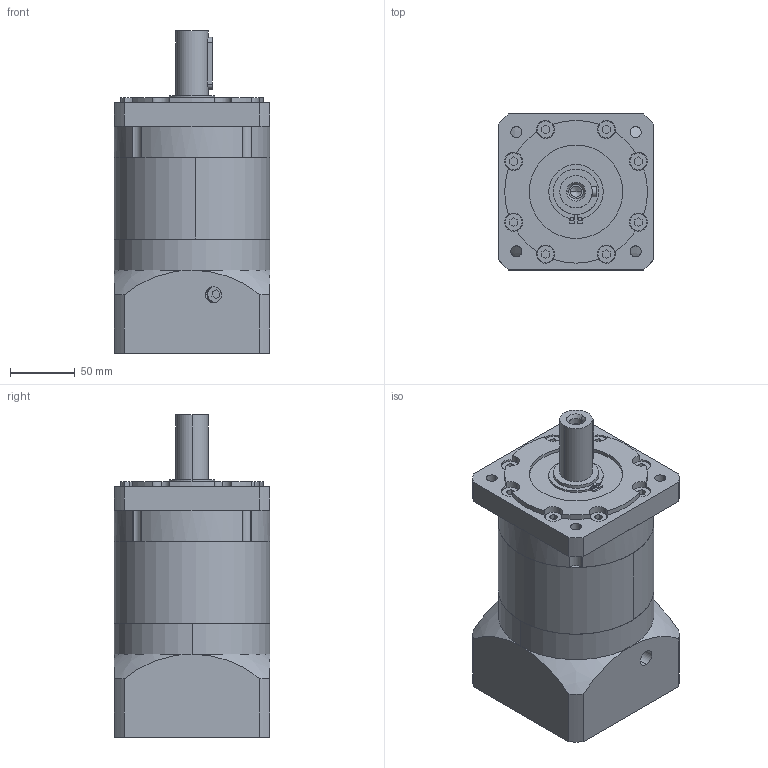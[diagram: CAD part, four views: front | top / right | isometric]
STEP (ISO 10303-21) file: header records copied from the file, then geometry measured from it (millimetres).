
FILE_DESCRIPTION (( 'STEP AP203' ), '1' );
FILE_NAME ('PLF120-L2-22-110-145粣酗70.STEP', '2023-11-21T01:56:41', ( 'Windows User' ), ( 'P R C' ), 'SwSTEP 2.0', 'SolidWorks 2016', '' );
FILE_SCHEMA (( 'CONFIG_CONTROL_DESIGN' ));
Length unit declared in the file: millimetre
Products named in the file (8): PLF120  內齿圈-优化_二级内齿圈; PLF120  奻屳唳; PLF120 狟屳唳-22; 粣創-6007 40x68x15; 邧埴瑩 8x7x40; PLF120-L2-22-110-145粣酗70; 螺釘範本 M8x20; PLF120 蟀諉啣--LR71.5
Assembly tree (7 placements, depth 2):
  PLF120-L2-22-110-145粣酗70
    螺釘範本 M8x20
    PLF120 蟀諉啣--LR71.5
    PLF120  內齿圈-优化_二级内齿圈
    PLF120  奻屳唳
    PLF120 狟屳唳-22
    粣創-6007 40x68x15
    邧埴瑩 8x7x40
Bounding box: 120 x 120 x 248.5 mm (x, y, z)
Volume: 2181991.9 mm3; surface area: 266242.9 mm2
Topology: 8 solids, 16 shells, 1241 faces, 3335 edges, 2203 vertices
Faces by surface type: plane 718, bspline 302, cylinder 207, cone 14
Entity records: 50500 total; most frequent: CARTESIAN_POINT 20262, ORIENTED_EDGE 6650, DIRECTION 5157, EDGE_CURVE 3325, VERTEX_POINT 2203, VECTOR 1983, LINE 1983, AXIS2_PLACEMENT_3D 1587
